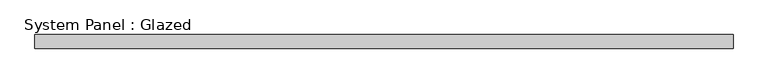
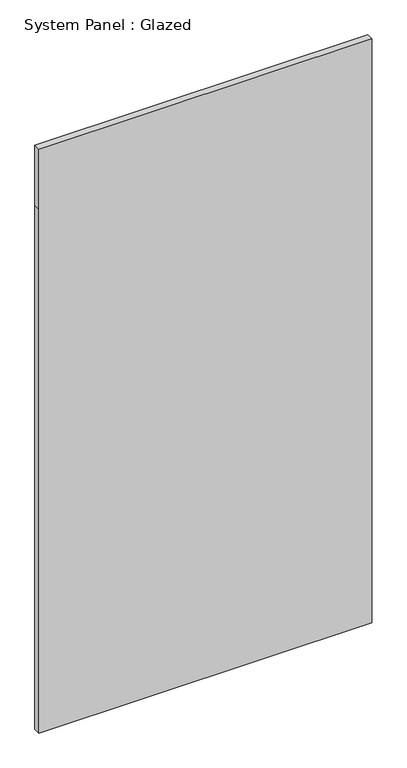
"""IFC4 building model written with IfcOpenShell, lengths in millimetres: plate geometry, System Panel : Glazed."""

import ifcopenshell
import ifcopenshell.guid

model = None  # the IFC model being written
_history = None  # IfcOwnerHistory: only IFC2X3 demands one
_inside = {}  # id of a spatial element -> (the spatial element, [elements in it])
_under = {}  # id of a project, library or spatial element -> (it, [spatial elements below it])
_declared = {}  # id of a project -> (the project, [libraries it declares])
_typed = {}  # id of a type object -> (the type object, [elements of that type])
_made_of = {}  # id of a material, layer set ... -> (it, [elements and type objects made of it])


def new_model(schema):
    """Start an empty IFC model of exactly this schema.

    Asked for "IFC4X3", IfcOpenShell would pick the latest addendum, in which some entities
    have other attributes; the version numbers below select the first issue.
    IFC2X3 requires an IfcOwnerHistory on every rooted entity: one is made here for all.
    """
    global model, _history
    if schema == "IFC4X3":
        model = ifcopenshell.file(schema_version=(4, 3, 0, 0))
    else:
        model = ifcopenshell.file(schema=schema)
    _inside.clear()
    _under.clear()
    _declared.clear()
    _typed.clear()
    _made_of.clear()
    _history = None
    if model.schema == "IFC2X3":
        org = make("IfcOrganization", Name="unknown")
        user = make(
            "IfcPersonAndOrganization",
            ThePerson=make("IfcPerson", FamilyName="unknown"),
            TheOrganization=org,
        )
        app = make(
            "IfcApplication",
            ApplicationDeveloper=org,
            Version="unknown",
            ApplicationFullName="unknown",
            ApplicationIdentifier="unknown",
        )
        _history = make(
            "IfcOwnerHistory",
            OwningUser=user,
            OwningApplication=app,
            ChangeAction="ADDED",
            CreationDate=0,
        )
    return model


def make(cls, **values):
    """One entity of the class cls with the attributes given. An attribute that is None is left unset."""
    return model.create_entity(
        cls, **{name: value for name, value in values.items() if value is not None}
    )


def rooted(cls, **values):
    """An entity with a GlobalId (a new one), such as an element, a storey or a relation."""
    return make(cls, GlobalId=ifcopenshell.guid.new(), OwnerHistory=_history, **values)


def si_unit(unit_type, name, prefix=None):
    """IfcSIUnit, for example si_unit("LENGTHUNIT", "METRE", prefix="MILLI")."""
    return make("IfcSIUnit", UnitType=unit_type, Prefix=prefix, Name=name)


def assignment(units):
    """IfcUnitAssignment: the units of a project."""
    return None if units is None else make("IfcUnitAssignment", Units=units)


def point(xyz):
    """IfcCartesianPoint."""
    return None if xyz is None else make("IfcCartesianPoint", Coordinates=xyz)


def direction(xyz):
    """IfcDirection."""
    return None if xyz is None else make("IfcDirection", DirectionRatios=xyz)


def frame(location, z_axis=None, x_axis=None):
    """IfcAxis2Placement3D, a coordinate frame: its origin and axes. An axis left out is left unset."""
    return make(
        "IfcAxis2Placement3D",
        Location=point(location),
        Axis=direction(z_axis),
        RefDirection=direction(x_axis),
    )


def origin():
    """The frame at (0, 0, 0) with its axes left unset."""
    return frame((0.0, 0.0, 0.0))


def place(relative_to, where):
    """IfcLocalPlacement: puts the frame where relative to a parent placement (None: the world)."""
    return make(
        "IfcLocalPlacement", PlacementRelTo=relative_to, RelativePlacement=where
    )


def context(
    kind, dimensions, precision=None, world=None, true_north=None, identifier=None
):
    """IfcGeometricRepresentationContext, for example the 3D "Model" context."""
    return make(
        "IfcGeometricRepresentationContext",
        ContextIdentifier=identifier,
        ContextType=kind,
        CoordinateSpaceDimension=dimensions,
        Precision=precision,
        WorldCoordinateSystem=world,
        TrueNorth=true_north,
    )


def project(units=None, contexts=None):
    """IfcProject with its units and contexts."""
    return rooted(
        "IfcProject",
        Name="project",
        RepresentationContexts=contexts,
        UnitsInContext=assignment(units),
    )


def spatial(cls, under=None, at=None, **own):
    """A site, building, storey or space (cls), placed at a placement, below another one or the project."""
    s = rooted(cls, ObjectPlacement=at, **own)
    if under is not None:
        _under.setdefault(under.id(), (under, []))[1].append(s)
    return s


def polyline(points):
    """IfcPolyline through the points."""
    return make("IfcPolyline", Points=[point(p) for p in points])


def outline(outer, holes=None, kind="AREA"):
    """IfcArbitraryClosedProfileDef: a profile drawn as a closed curve; with holes, ...WithVoids."""
    if holes is None:
        return make("IfcArbitraryClosedProfileDef", ProfileType=kind, OuterCurve=outer)
    return make(
        "IfcArbitraryProfileDefWithVoids",
        ProfileType=kind,
        OuterCurve=outer,
        InnerCurves=holes,
    )


def extrude(swept, where, along, depth):
    """IfcExtrudedAreaSolid: the profile swept, set in the frame where, extruded along a direction by depth."""
    return make(
        "IfcExtrudedAreaSolid",
        SweptArea=swept,
        Position=where,
        ExtrudedDirection=direction(along),
        Depth=depth,
    )


def shape(context_of_items, identifier, shape_type, items):
    """IfcShapeRepresentation: the items that make up one representation, for example the "Body"."""
    return make(
        "IfcShapeRepresentation",
        ContextOfItems=context_of_items,
        RepresentationIdentifier=identifier,
        RepresentationType=shape_type,
        Items=items,
    )


def source(mapping_origin, context_of_items, identifier, shape_type, items):
    """IfcRepresentationMap: a shape defined once, which mapped items show again and again."""
    return make(
        "IfcRepresentationMap",
        MappingOrigin=mapping_origin,
        MappedRepresentation=shape(context_of_items, identifier, shape_type, items),
    )


def transform(
    local_origin,
    x_axis=None,
    y_axis=None,
    z_axis=None,
    scale=None,
    scale2=None,
    scale3=None,
    uniform=True,
):
    """IfcCartesianTransformationOperator3D, or its non-uniform kind. x_axis, y_axis, z_axis: its Axis1, 2, 3."""
    if uniform:
        return make(
            "IfcCartesianTransformationOperator3D",
            Axis1=direction(x_axis),
            Axis2=direction(y_axis),
            LocalOrigin=point(local_origin),
            Scale=scale,
            Axis3=direction(z_axis),
        )
    return make(
        "IfcCartesianTransformationOperator3DnonUniform",
        Axis1=direction(x_axis),
        Axis2=direction(y_axis),
        LocalOrigin=point(local_origin),
        Scale=scale,
        Axis3=direction(z_axis),
        Scale2=scale2,
        Scale3=scale3,
    )


def mapped(mapping_source, mapping_target):
    """IfcMappedItem: shows the shape of a source again, moved by a transform."""
    return make(
        "IfcMappedItem", MappingSource=mapping_source, MappingTarget=mapping_target
    )


def made_of(thing, what):
    """Note that an element or type object is made of a material, layer set ...; save() writes the relation."""
    if what is not None:
        _made_of.setdefault(what.id(), (what, []))[1].append(thing)
    return thing


def element(
    cls,
    number,
    at=None,
    inside=None,
    cuts=None,
    type_object=None,
    material=None,
    context=None,
    identifier="Body",
    shape_type=None,
    held_by="IfcProductDefinitionShape",
    body=None,
    shapes=None,
    **own,
):
    """One element of the class cls, such as IfcWall. Its Tag is "e" and its number.

    at: its placement. inside: the storey or other place that contains it. cuts: it is an
    opening in that element (IfcRelVoidsElement). A single representation is given by context,
    identifier, shape_type and body (its items); several are given by shapes. held_by: the class
    of the entity that holds the representations. save() writes the other relations.
    """
    e = rooted(cls, Tag="e%d" % number, ObjectPlacement=at, **own)
    if body is not None:
        shapes = [shape(context, identifier, shape_type, body)]
    if shapes is not None:
        e.Representation = make(held_by, Representations=shapes)
    if inside is not None:
        _inside.setdefault(inside.id(), (inside, []))[1].append(e)
    if cuts is not None:
        rooted(
            "IfcRelVoidsElement", RelatingBuildingElement=cuts, RelatedOpeningElement=e
        )
    if type_object is not None:
        _typed.setdefault(type_object.id(), (type_object, []))[1].append(e)
    return made_of(e, material)


def aggregate(whole, parts):
    """IfcRelAggregates: a whole, such as a stair, and the parts it consists of."""
    return rooted("IfcRelAggregates", RelatingObject=whole, RelatedObjects=parts)


def save(model, path):
    """Write the relations noted so far, then the file.

    IfcRelAggregates (storeys below a building ...), IfcRelContainedInSpatialStructure (elements
    in a storey), IfcRelDefinesByType, IfcRelAssociatesMaterial and IfcRelDeclares: one each for
    every whole, place, type object, material and project.
    """
    for whole, parts in _under.values():
        aggregate(whole, parts)
    for where, things in _inside.values():
        rooted(
            "IfcRelContainedInSpatialStructure",
            RelatedElements=things,
            RelatingStructure=where,
        )
    for kind, things in _typed.values():
        rooted("IfcRelDefinesByType", RelatedObjects=things, RelatingType=kind)
    for what, things in _made_of.values():
        rooted("IfcRelAssociatesMaterial", RelatedObjects=things, RelatingMaterial=what)
    for by, libraries in _declared.values():
        rooted("IfcRelDeclares", RelatingContext=by, RelatedDefinitions=libraries)
    model.write(path)


def system_panel_glazed_f95bfe21(model_context):
    return source(origin(), model_context, "Body", "SweptSolid", [
        extrude(outline(polyline([(0.0, -631.825), (0.0, 631.825), (2101.85, 631.825), (2343.15, 631.825), (2343.15, -631.825), (2101.85, -631.825), (0.0, -631.825)])), frame((0.0, 19.05, 0.0), z_axis=(0.0, 1.0, 0.0), x_axis=(0.0, 0.0, 1.0)), (0.0, 0.0, 1.0), 25.4),
    ])


if __name__ == "__main__":
    model = new_model("IFC4")
    model_context = context("Model", 3, world=origin())
    ifc_project = project(units=[si_unit("LENGTHUNIT", "METRE", prefix="MILLI")], contexts=[model_context])
    site = spatial("IfcSite", under=ifc_project)
    building = spatial("IfcBuilding", under=site)
    placement = place(None, origin())
    system_panel_glazed_shape = system_panel_glazed_f95bfe21(model_context)
    element("IfcPlate", 1, ObjectType="System Panel : Glazed", at=placement, inside=building, context=model_context, shape_type="MappedRepresentation", body=[
        mapped(system_panel_glazed_shape, transform((0.0, 0.0, 0.0), x_axis=(1.0, 0.0, 0.0), y_axis=(0.0, 1.0, 0.0), z_axis=(0.0, 0.0, 1.0))),
    ])
    save(model, "model.ifc")
